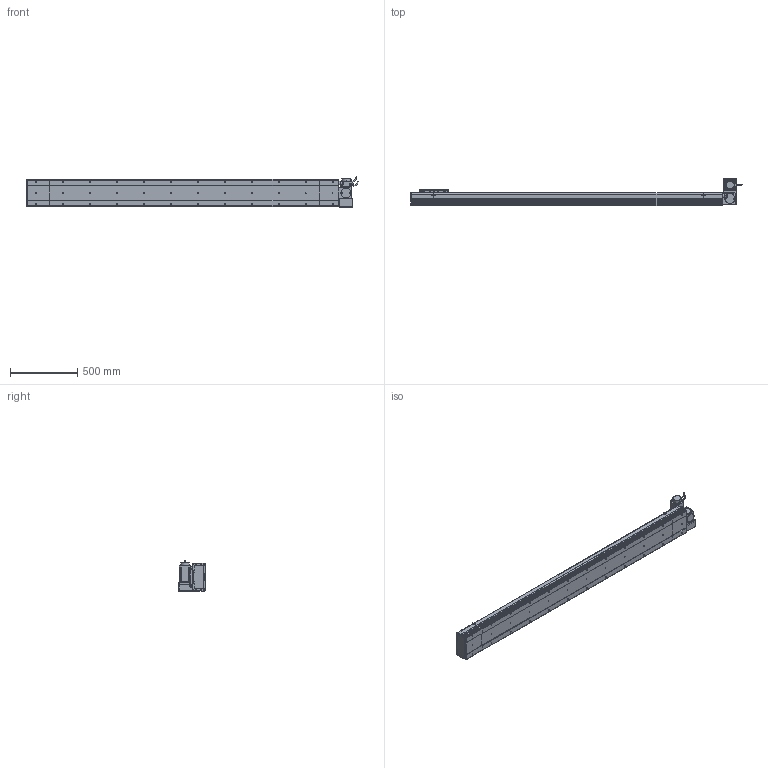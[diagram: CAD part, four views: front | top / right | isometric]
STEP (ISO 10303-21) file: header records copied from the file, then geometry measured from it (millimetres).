
FILE_DESCRIPTION (( 'STEP AP214' ), '1' );
FILE_NAME ('D20 CBH RT S2000.STEP', '2010-06-30T09:52:53', ( 'Conseil Régional Haute-Normandie' ), ( 'Conseil Régional Haute-Normandie' ), 'SwSTEP 2.0', 'SolidWorks 2010', '' );
FILE_SCHEMA (( 'AUTOMOTIVE_DESIGN' ));
Length unit declared in the file: millimetre
Products named in the file (31): avant 90BLDC125A-640; Conecteur_Default; corps 90BLDC125A-640; Rondelle Cache D20 RT_Default; codeur 90BLDC125-640; Conecteur2_Default; Cache Support Moteur RT_Default; ecrou_Default; vis M5 L30_Default; vis M5 L47_Default; Couvercle_Default; Corp Tail D20_Default; Tail D20_Default; Plaque de Bout Tail D20_Default; vis M5 L15_Default; Plaque De Serrage D20_Default; Glissiere_Default; Chariot D20_Default; Support Chariot D20_Default; Couvercle S2000_Default; Corp S2000_Default; Corp D20 S2000_Default; Head RT_Default; D20 CBH RT S2000; Plaque de Bout Head D20 RT_Default; Couvercle RT_Default; Corp Tail D20 RT_Default; Moteur motionking 90BLDC125A-640; Support moteur RT_Default; Plaque De Serrage D20 RT_Default
Assembly tree (68 placements, depth 4):
  D20 CBH RT S2000
    Head RT_Default
      vis M5 L15_Default  x14
      Support moteur RT_Default
      vis M5 L30_Default  x4
      Couvercle RT_Default
      vis M5 L47_Default  x4
      ecrou_Default  x4
      Moteur motionking 90BLDC125A-640
        avant 90BLDC125A-640
        Conecteur2_Default
        Conecteur_Default
        codeur 90BLDC125-640
        corps 90BLDC125A-640
      Cache Support Moteur RT_Default
      Rondelle Cache D20 RT_Default  x3
      Plaque de Bout Head D20 RT_Default
      Plaque De Serrage D20 RT_Default
      Corp Tail D20 RT_Default
    Corp D20 S2000_Default
      Corp S2000_Default
      Couvercle S2000_Default
    Tail D20_Default
      Plaque De Serrage D20_Default
      vis M5 L15_Default  x6
      Couvercle_Default
      Corp Tail D20_Default
      Plaque de Bout Tail D20_Default
    Chariot D20_Default
      Glissiere_Default
      vis M5 L15_Default  x8
      Chariot D20_Default
      Support Chariot D20_Default
Bounding box: 2464.45 x 206.5 x 229.7 mm (x, y, z)
Volume: 16924648.7 mm3; surface area: 3308292.6 mm2
Topology: 105 solids, 105 shells, 3817 faces, 9498 edges, 6166 vertices
Faces by surface type: plane 2128, bspline 806, cylinder 712, torus 95, cone 72, sphere 4
Entity records: 159422 total; most frequent: CARTESIAN_POINT 82313, ORIENTED_EDGE 15264, DIRECTION 11614, EDGE_CURVE 7632, VERTEX_POINT 5050, LINE 4936, VECTOR 4936, AXIS2_PLACEMENT_3D 3339
